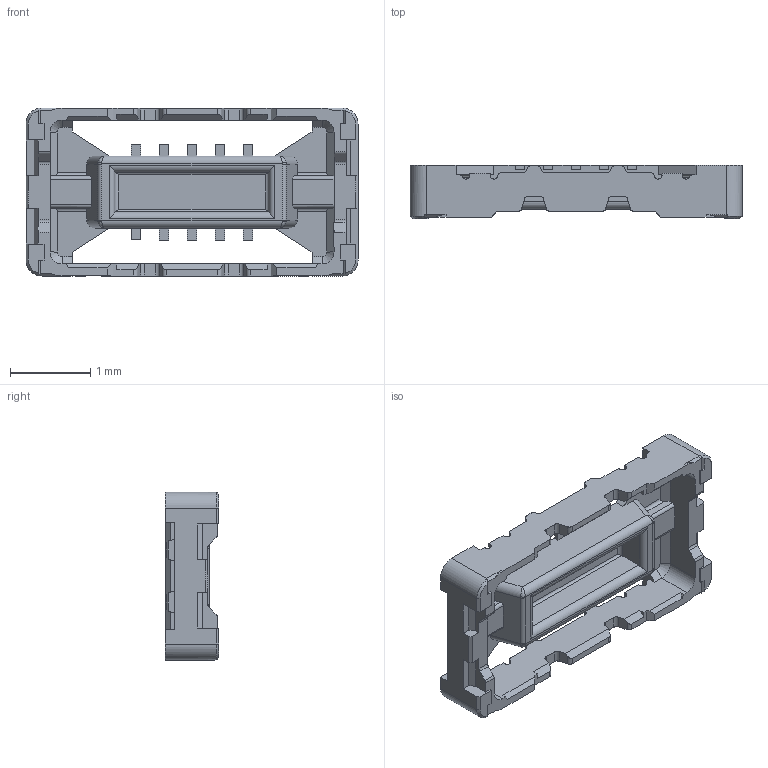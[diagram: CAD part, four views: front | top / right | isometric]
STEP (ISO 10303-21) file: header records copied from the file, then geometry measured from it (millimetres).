
FILE_DESCRIPTION (( 'STEP AP203' ), '1' );
FILE_NAME ('20864-010E-02C PLUG ASSY.STEP', '2019-12-17T04:26:17', ( '' ), ( '' ), 'SwSTEP 2.0', 'SolidWorks 2017', '' );
FILE_SCHEMA (( 'CONFIG_CONTROL_DESIGN' ));
Length unit declared in the file: millimetre
Products named in the file (1): 20864-010E-02C PLUG ASSY
Bounding box: 4.15 x 0.67 x 2.1 mm (x, y, z)
Volume: 2.2 mm3; surface area: 30.2 mm2
Topology: 1 solids, 1 shells, 399 faces, 1164 edges, 760 vertices
Faces by surface type: plane 271, cylinder 108, cone 12, bspline 8
Entity records: 13523 total; most frequent: CARTESIAN_POINT 2984, ORIENTED_EDGE 2320, DIRECTION 2048, EDGE_CURVE 1160, LINE 896, VECTOR 896, VERTEX_POINT 760, AXIS2_PLACEMENT_3D 576
